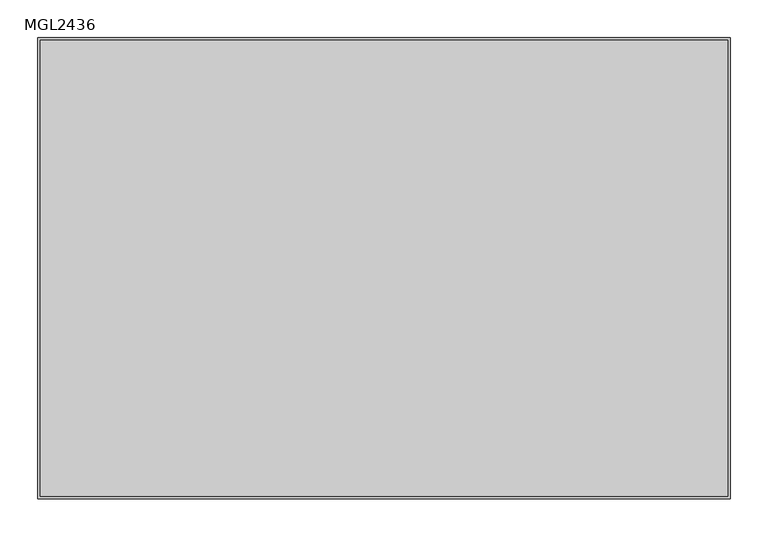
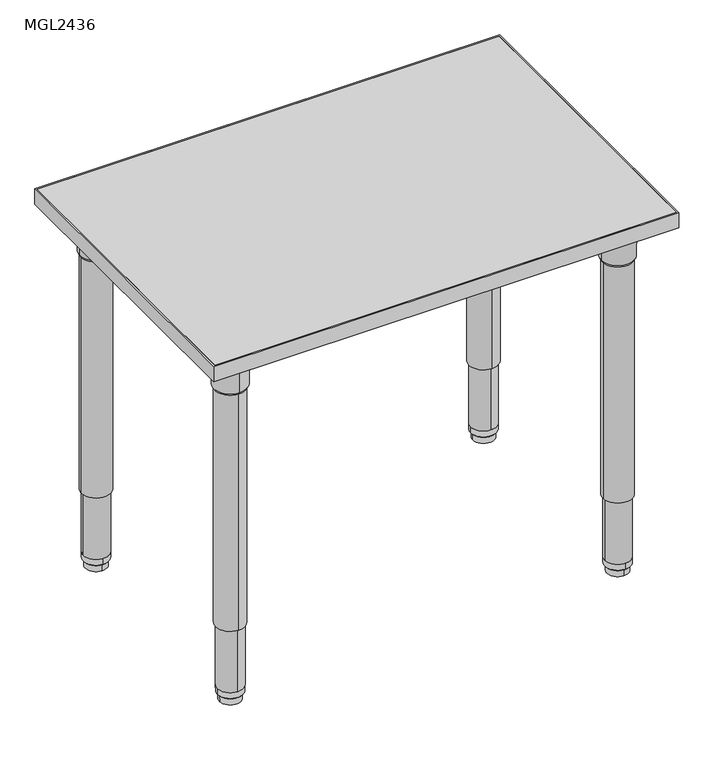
"""IFC4 building model written with IfcOpenShell, lengths in millimetres: furniture geometry, ERG-Mingle-Table-Rectangle : MGL2436."""

import ifcopenshell
import ifcopenshell.guid

model = None  # the IFC model being written
_history = None  # IfcOwnerHistory: only IFC2X3 demands one
_inside = {}  # id of a spatial element -> (the spatial element, [elements in it])
_under = {}  # id of a project, library or spatial element -> (it, [spatial elements below it])
_declared = {}  # id of a project -> (the project, [libraries it declares])
_typed = {}  # id of a type object -> (the type object, [elements of that type])
_made_of = {}  # id of a material, layer set ... -> (it, [elements and type objects made of it])


def new_model(schema):
    """Start an empty IFC model of exactly this schema.

    Asked for "IFC4X3", IfcOpenShell would pick the latest addendum, in which some entities
    have other attributes; the version numbers below select the first issue.
    IFC2X3 requires an IfcOwnerHistory on every rooted entity: one is made here for all.
    """
    global model, _history
    if schema == "IFC4X3":
        model = ifcopenshell.file(schema_version=(4, 3, 0, 0))
    else:
        model = ifcopenshell.file(schema=schema)
    _inside.clear()
    _under.clear()
    _declared.clear()
    _typed.clear()
    _made_of.clear()
    _history = None
    if model.schema == "IFC2X3":
        org = make("IfcOrganization", Name="unknown")
        user = make(
            "IfcPersonAndOrganization",
            ThePerson=make("IfcPerson", FamilyName="unknown"),
            TheOrganization=org,
        )
        app = make(
            "IfcApplication",
            ApplicationDeveloper=org,
            Version="unknown",
            ApplicationFullName="unknown",
            ApplicationIdentifier="unknown",
        )
        _history = make(
            "IfcOwnerHistory",
            OwningUser=user,
            OwningApplication=app,
            ChangeAction="ADDED",
            CreationDate=0,
        )
    return model


def make(cls, **values):
    """One entity of the class cls with the attributes given. An attribute that is None is left unset."""
    return model.create_entity(
        cls, **{name: value for name, value in values.items() if value is not None}
    )


def rooted(cls, **values):
    """An entity with a GlobalId (a new one), such as an element, a storey or a relation."""
    return make(cls, GlobalId=ifcopenshell.guid.new(), OwnerHistory=_history, **values)


def si_unit(unit_type, name, prefix=None):
    """IfcSIUnit, for example si_unit("LENGTHUNIT", "METRE", prefix="MILLI")."""
    return make("IfcSIUnit", UnitType=unit_type, Prefix=prefix, Name=name)


def assignment(units):
    """IfcUnitAssignment: the units of a project."""
    return None if units is None else make("IfcUnitAssignment", Units=units)


def point(xyz):
    """IfcCartesianPoint."""
    return None if xyz is None else make("IfcCartesianPoint", Coordinates=xyz)


def direction(xyz):
    """IfcDirection."""
    return None if xyz is None else make("IfcDirection", DirectionRatios=xyz)


def frame(location, z_axis=None, x_axis=None):
    """IfcAxis2Placement3D, a coordinate frame: its origin and axes. An axis left out is left unset."""
    return make(
        "IfcAxis2Placement3D",
        Location=point(location),
        Axis=direction(z_axis),
        RefDirection=direction(x_axis),
    )


def frame_2d(location, x_axis=None):
    """IfcAxis2Placement2D, a coordinate frame in the plane: its origin and x axis."""
    return make(
        "IfcAxis2Placement2D", Location=point(location), RefDirection=direction(x_axis)
    )


def origin():
    """The frame at (0, 0, 0) with its axes left unset."""
    return frame((0.0, 0.0, 0.0))


def place(relative_to, where):
    """IfcLocalPlacement: puts the frame where relative to a parent placement (None: the world)."""
    return make(
        "IfcLocalPlacement", PlacementRelTo=relative_to, RelativePlacement=where
    )


def context(
    kind, dimensions, precision=None, world=None, true_north=None, identifier=None
):
    """IfcGeometricRepresentationContext, for example the 3D "Model" context."""
    return make(
        "IfcGeometricRepresentationContext",
        ContextIdentifier=identifier,
        ContextType=kind,
        CoordinateSpaceDimension=dimensions,
        Precision=precision,
        WorldCoordinateSystem=world,
        TrueNorth=true_north,
    )


def project(units=None, contexts=None):
    """IfcProject with its units and contexts."""
    return rooted(
        "IfcProject",
        Name="project",
        RepresentationContexts=contexts,
        UnitsInContext=assignment(units),
    )


def spatial(cls, under=None, at=None, **own):
    """A site, building, storey or space (cls), placed at a placement, below another one or the project."""
    s = rooted(cls, ObjectPlacement=at, **own)
    if under is not None:
        _under.setdefault(under.id(), (under, []))[1].append(s)
    return s


def polyline(points):
    """IfcPolyline through the points."""
    return make("IfcPolyline", Points=[point(p) for p in points])


def circle_curve(where, radius):
    """IfcCircle in the frame where."""
    return make("IfcCircle", Position=where, Radius=radius)


def trimmed(basis, trim1, trim2, sense, master):
    """IfcTrimmedCurve: the piece of a basis curve between two trims."""
    return make(
        "IfcTrimmedCurve",
        BasisCurve=basis,
        Trim1=trim1,
        Trim2=trim2,
        SenseAgreement=sense,
        MasterRepresentation=master,
    )


def segment(curve, same_sense, transition):
    """IfcCompositeCurveSegment."""
    return make(
        "IfcCompositeCurveSegment",
        Transition=transition,
        SameSense=same_sense,
        ParentCurve=curve,
    )


def composite_curve(segments, self_intersect=None):
    """IfcCompositeCurve: segments joined end to end."""
    return make("IfcCompositeCurve", Segments=segments, SelfIntersect=self_intersect)


def outline(outer, holes=None, kind="AREA"):
    """IfcArbitraryClosedProfileDef: a profile drawn as a closed curve; with holes, ...WithVoids."""
    if holes is None:
        return make("IfcArbitraryClosedProfileDef", ProfileType=kind, OuterCurve=outer)
    return make(
        "IfcArbitraryProfileDefWithVoids",
        ProfileType=kind,
        OuterCurve=outer,
        InnerCurves=holes,
    )


def extrude(swept, where, along, depth):
    """IfcExtrudedAreaSolid: the profile swept, set in the frame where, extruded along a direction by depth."""
    return make(
        "IfcExtrudedAreaSolid",
        SweptArea=swept,
        Position=where,
        ExtrudedDirection=direction(along),
        Depth=depth,
    )


def shape(context_of_items, identifier, shape_type, items):
    """IfcShapeRepresentation: the items that make up one representation, for example the "Body"."""
    return make(
        "IfcShapeRepresentation",
        ContextOfItems=context_of_items,
        RepresentationIdentifier=identifier,
        RepresentationType=shape_type,
        Items=items,
    )


def source(mapping_origin, context_of_items, identifier, shape_type, items):
    """IfcRepresentationMap: a shape defined once, which mapped items show again and again."""
    return make(
        "IfcRepresentationMap",
        MappingOrigin=mapping_origin,
        MappedRepresentation=shape(context_of_items, identifier, shape_type, items),
    )


def transform(
    local_origin,
    x_axis=None,
    y_axis=None,
    z_axis=None,
    scale=None,
    scale2=None,
    scale3=None,
    uniform=True,
):
    """IfcCartesianTransformationOperator3D, or its non-uniform kind. x_axis, y_axis, z_axis: its Axis1, 2, 3."""
    if uniform:
        return make(
            "IfcCartesianTransformationOperator3D",
            Axis1=direction(x_axis),
            Axis2=direction(y_axis),
            LocalOrigin=point(local_origin),
            Scale=scale,
            Axis3=direction(z_axis),
        )
    return make(
        "IfcCartesianTransformationOperator3DnonUniform",
        Axis1=direction(x_axis),
        Axis2=direction(y_axis),
        LocalOrigin=point(local_origin),
        Scale=scale,
        Axis3=direction(z_axis),
        Scale2=scale2,
        Scale3=scale3,
    )


def mapped(mapping_source, mapping_target):
    """IfcMappedItem: shows the shape of a source again, moved by a transform."""
    return make(
        "IfcMappedItem", MappingSource=mapping_source, MappingTarget=mapping_target
    )


def made_of(thing, what):
    """Note that an element or type object is made of a material, layer set ...; save() writes the relation."""
    if what is not None:
        _made_of.setdefault(what.id(), (what, []))[1].append(thing)
    return thing


def element(
    cls,
    number,
    at=None,
    inside=None,
    cuts=None,
    type_object=None,
    material=None,
    context=None,
    identifier="Body",
    shape_type=None,
    held_by="IfcProductDefinitionShape",
    body=None,
    shapes=None,
    **own,
):
    """One element of the class cls, such as IfcWall. Its Tag is "e" and its number.

    at: its placement. inside: the storey or other place that contains it. cuts: it is an
    opening in that element (IfcRelVoidsElement). A single representation is given by context,
    identifier, shape_type and body (its items); several are given by shapes. held_by: the class
    of the entity that holds the representations. save() writes the other relations.
    """
    e = rooted(cls, Tag="e%d" % number, ObjectPlacement=at, **own)
    if body is not None:
        shapes = [shape(context, identifier, shape_type, body)]
    if shapes is not None:
        e.Representation = make(held_by, Representations=shapes)
    if inside is not None:
        _inside.setdefault(inside.id(), (inside, []))[1].append(e)
    if cuts is not None:
        rooted(
            "IfcRelVoidsElement", RelatingBuildingElement=cuts, RelatedOpeningElement=e
        )
    if type_object is not None:
        _typed.setdefault(type_object.id(), (type_object, []))[1].append(e)
    return made_of(e, material)


def aggregate(whole, parts):
    """IfcRelAggregates: a whole, such as a stair, and the parts it consists of."""
    return rooted("IfcRelAggregates", RelatingObject=whole, RelatedObjects=parts)


def save(model, path):
    """Write the relations noted so far, then the file.

    IfcRelAggregates (storeys below a building ...), IfcRelContainedInSpatialStructure (elements
    in a storey), IfcRelDefinesByType, IfcRelAssociatesMaterial and IfcRelDeclares: one each for
    every whole, place, type object, material and project.
    """
    for whole, parts in _under.values():
        aggregate(whole, parts)
    for where, things in _inside.values():
        rooted(
            "IfcRelContainedInSpatialStructure",
            RelatedElements=things,
            RelatingStructure=where,
        )
    for kind, things in _typed.values():
        rooted("IfcRelDefinesByType", RelatedObjects=things, RelatingType=kind)
    for what, things in _made_of.values():
        rooted("IfcRelAssociatesMaterial", RelatedObjects=things, RelatingMaterial=what)
    for by, libraries in _declared.values():
        rooted("IfcRelDeclares", RelatingContext=by, RelatedDefinitions=libraries)
    model.write(path)


def plane_surface(at):
    """IfcPlane: the flat surface through the origin of the frame at, square to its z axis."""
    return make("IfcPlane", Position=at)


def cylinder_surface(at, radius):
    """IfcCylindricalSurface: all points at the distance radius from the z axis of the frame at."""
    return make("IfcCylindricalSurface", Position=at, Radius=radius)


def revolved_surface(curve, axis_point, axis_direction):
    """IfcSurfaceOfRevolution: the curve turned about the line through axis_point along axis_direction."""
    return make(
        "IfcSurfaceOfRevolution",
        SweptCurve=make("IfcArbitraryOpenProfileDef", ProfileType="CURVE", Curve=curve),
        AxisPosition=make("IfcAxis1Placement", Location=point(axis_point), Axis=direction(axis_direction)),
    )


def advanced_brep(points, edges, surfaces, faces):
    """IfcAdvancedBrep: a solid bounded by faces that lie on surfaces and meet in shared edges.

    An edge is (start, end): straight between two places in points (the first is 0);
    or (start, end, curve); or (start, end, curve, False) where it runs against its curve.
    A face is (place in surfaces, loops), or (place, loops, False) where it looks against
    its surface's normal. A loop lists edges by number (the first is 1), with a minus sign
    where the edge is run from its end to its start. The first loop is the outer one.
    """
    corners = [point(p) for p in points]
    vertices = [make("IfcVertexPoint", VertexGeometry=c) for c in corners]
    made = []
    for start, end, *more in edges:
        made.append(
            make(
                "IfcEdgeCurve",
                EdgeStart=vertices[start],
                EdgeEnd=vertices[end],
                EdgeGeometry=more[0] if more else make("IfcPolyline", Points=[corners[start], corners[end]]),
                SameSense=more[1] if len(more) > 1 else True,
            )
        )
    hull = []
    for where, loops, *sense in faces:
        bounds = []
        for j, loop in enumerate(loops):
            ring = [make("IfcOrientedEdge", EdgeElement=made[abs(k) - 1], Orientation=k > 0) for k in loop]
            bounds.append(
                make(
                    "IfcFaceOuterBound" if j == 0 else "IfcFaceBound",
                    Bound=make("IfcEdgeLoop", EdgeList=ring),
                    Orientation=True,
                )
            )
        hull.append(make("IfcAdvancedFace", Bounds=bounds, FaceSurface=surfaces[where], SameSense=sense[0] if sense else True))
    return make("IfcAdvancedBrep", Outer=make("IfcClosedShell", CfsFaces=hull))


def mgl2436_2387e3a6(model_context):
    return source(origin(), model_context, "Body", "SolidModel", [
        advanced_brep(
        [(350.9646842, -228.6, 650.5933069), (411.0353158, -228.6, 650.5933069), (381.0, -228.6, 650.5933069), (348.856117, -228.6, 654.3580481), (413.143883, -228.6, 654.3580481), (347.9206351, -228.6, 707.7631458), (414.0793649, -228.6, 707.7631458), (344.471083, -228.6, 714.1198315), (417.528917, -228.6, 714.1198315), (344.471083, -228.6, 726.8198315), (417.528917, -228.6, 726.8198315), (381.0, -228.6, 726.8198315)],
        [
            (0, 1, circle_curve(frame((381.0, -228.6, 650.5933069), z_axis=(0.0, 0.0, -1.0), x_axis=(1.0, 0.0, 0.0)), 30.0353158)),
            (1, 2),
            (2, 0),
            (1, 0, circle_curve(frame((381.0, -228.6, 650.5933069), z_axis=(0.0, 0.0, -1.0), x_axis=(1.0, 0.0, 0.0)), 30.0353158)),
            (3, 4, circle_curve(frame((381.0, -228.6, 654.3580481), z_axis=(0.0, 0.0, -1.0), x_axis=(1.0, 0.0, 0.0)), 32.143883)),
            (4, 1),
            (0, 3),
            (4, 3, circle_curve(frame((381.0, -228.6, 654.3580481), z_axis=(0.0, 0.0, -1.0), x_axis=(1.0, 0.0, 0.0)), 32.143883)),
            (5, 6, circle_curve(frame((381.0, -228.6, 707.7631458), z_axis=(0.0, 0.0, -1.0), x_axis=(1.0, 0.0, 0.0)), 33.0793649)),
            (6, 4),
            (3, 5),
            (6, 5, circle_curve(frame((381.0, -228.6, 707.7631458), z_axis=(0.0, 0.0, -1.0), x_axis=(1.0, 0.0, 0.0)), 33.0793649)),
            (7, 8, circle_curve(frame((381.0, -228.6, 714.1198315), z_axis=(0.0, 0.0, -1.0), x_axis=(1.0, 0.0, 0.0)), 36.528917)),
            (8, 6),
            (5, 7),
            (8, 7, circle_curve(frame((381.0, -228.6, 714.1198315), z_axis=(0.0, 0.0, -1.0), x_axis=(1.0, 0.0, 0.0)), 36.528917)),
            (9, 10, circle_curve(frame((381.0, -228.6, 726.8198315), z_axis=(0.0, 0.0, -1.0), x_axis=(1.0, 0.0, 0.0)), 36.528917)),
            (10, 8),
            (7, 9),
            (10, 9, circle_curve(frame((381.0, -228.6, 726.8198315), z_axis=(0.0, 0.0, -1.0), x_axis=(1.0, 0.0, 0.0)), 36.528917)),
            (11, 10),
            (9, 11),
        ],
        [
            plane_surface(frame((381.0, -228.6, 650.5933069), z_axis=(0.0, 0.0, -1.0), x_axis=(1.0, 0.0, 0.0))),
            revolved_surface(polyline([(411.0353158, -228.6, 650.5933069), (413.143883, -228.6, 654.3580481)]), (381.0, -228.6, 726.8198315), (0.0, 0.0, 1.0)),
            revolved_surface(polyline([(413.143883, -228.6, 654.3580481), (414.0793649, -228.6, 707.7631458)]), (381.0, -228.6, 726.8198315), (0.0, 0.0, 1.0)),
            revolved_surface(polyline([(414.0793649, -228.6, 707.7631458), (417.528917, -228.6, 714.1198315)]), (381.0, -228.6, 726.8198315), (0.0, 0.0, 1.0)),
            cylinder_surface(frame((381.0, -228.6, 726.8198315), z_axis=(0.0, 0.0, 1.0), x_axis=(1.0, 0.0, 0.0)), 36.528917),
            plane_surface(frame((381.0, -228.6, 726.8198315), z_axis=(0.0, 0.0, 1.0), x_axis=(1.0, 0.0, 0.0))),
        ],
        [
            (0, [[1, 2, 3]]),
            (0, [[4, -3, -2]]),
            (1, [[5, 6, -1, 7]]),
            (1, [[8, -7, -4, -6]]),
            (2, [[9, 10, -5, 11]]),
            (2, [[12, -11, -8, -10]]),
            (3, [[13, 14, -9, 15]]),
            (3, [[16, -15, -12, -14]]),
            (4, [[17, 18, -13, 19]]),
            (4, [[20, -19, -16, -18]]),
            (5, [[21, -17, 22]]),
            (5, [[-22, -20, -21]]),
        ],
    ),
        extrude(outline(composite_curve([segment(polyline([(426.873768, -146.0223426), (426.873768, -259.7483754)]), True, "CONTINUOUS"), segment(trimmed(circle_curve(frame_2d((410.998768, -259.7483754)), 15.875), [point((426.873768, -259.7483754))], [point((410.998768, -275.6233754))], False, "CARTESIAN"), True, "CONTINUOUS"), segment(polyline([(410.998768, -275.6233754), (297.2864205, -275.6233754)]), True, "CONTINUOUS"), segment(trimmed(circle_curve(frame_2d((297.2864205, -262.9233754)), 12.7), [point((297.2864205, -275.6233754))], [point((284.6491923, -261.6622394))], False, "CARTESIAN"), True, "CONTINUOUS"), segment(trimmed(circle_curve(frame_2d((427.1486077, -275.8830117)), 143.2072406), [point((284.6491923, -261.6622394))], [point((412.9111525, -133.3852622))], False, "CARTESIAN"), True, "CONTINUOUS"), segment(trimmed(circle_curve(frame_2d((414.173768, -146.0223426)), 12.7), [point((412.9111525, -133.3852622))], [point((426.873768, -146.0223426))], False, "CARTESIAN"), True, "CONTINUOUS")], self_intersect=False)), frame((0.0, 0.0, 726.8198315), z_axis=(0.0, 0.0, 1.0), x_axis=(1.0, 0.0, 0.0)), (0.0, 0.0, 1.0), 3.4301685),
        extrude(outline(composite_curve([segment(trimmed(circle_curve(frame_2d((381.0, -228.6)), 28.575), [point((409.575, -228.6))], [point((352.425, -228.6))], False, "CARTESIAN"), True, "CONTINUOUS"), segment(trimmed(circle_curve(frame_2d((381.0, -228.6)), 28.575), [point((352.425, -228.6))], [point((409.575, -228.6))], False, "CARTESIAN"), True, "CONTINUOUS")], self_intersect=False)), frame((0.0, 0.0, 158.3876979), z_axis=(0.0, 0.0, 1.0), x_axis=(1.0, 0.0, 0.0)), (0.0, 0.0, 1.0), 495.4089866),
        extrude(outline(composite_curve([segment(trimmed(circle_curve(frame_2d((381.0, -228.6)), 25.4), [point((406.4, -228.6))], [point((355.6, -228.6))], False, "CARTESIAN"), True, "CONTINUOUS"), segment(trimmed(circle_curve(frame_2d((381.0, -228.6)), 25.4), [point((355.6, -228.6))], [point((406.4, -228.6))], False, "CARTESIAN"), True, "CONTINUOUS")], self_intersect=False)), frame((0.0, 0.0, 28.9580435), z_axis=(0.0, 0.0, 1.0), x_axis=(1.0, 0.0, 0.0)), (0.0, 0.0, 1.0), 176.7049119),
        advanced_brep(
        [(381.0, -203.3649896, 28.9580185), (381.0, -253.8350104, 28.9580185), (381.0, -228.6, 28.9580185), (381.0, -203.500761, 16.3032949), (381.0, -253.699239, 16.3032949), (381.0, -205.0160619, 14.7291007), (381.0, -252.1839381, 14.7291007), (381.0, -207.4591422, 14.7291007), (381.0, -249.7408578, 14.7291007), (381.0, -207.6521336, 0.0), (381.0, -249.5478664, 0.0), (381.0, -228.6, 0.0)],
        [
            (0, 1, circle_curve(frame((381.0, -228.6, 28.9580185), z_axis=(0.0, 0.0, 1.0), x_axis=(0.0, -1.0, 0.0)), 25.2350104)),
            (1, 2),
            (2, 0),
            (1, 0, circle_curve(frame((381.0, -228.6, 28.9580185), z_axis=(0.0, 0.0, 1.0), x_axis=(0.0, -1.0, 0.0)), 25.2350104)),
            (3, 4, circle_curve(frame((381.0, -228.6, 16.3032949), z_axis=(0.0, 0.0, 1.0), x_axis=(0.0, -1.0, 0.0)), 25.099239)),
            (4, 1),
            (0, 3),
            (4, 3, circle_curve(frame((381.0, -228.6, 16.3032949), z_axis=(0.0, 0.0, 1.0), x_axis=(0.0, -1.0, 0.0)), 25.099239)),
            (5, 6, circle_curve(frame((381.0, -228.6, 14.7291007), z_axis=(0.0, 0.0, 1.0), x_axis=(0.0, -1.0, 0.0)), 23.5839381)),
            (6, 4),
            (3, 5),
            (6, 5, circle_curve(frame((381.0, -228.6, 14.7291007), z_axis=(0.0, 0.0, 1.0), x_axis=(0.0, -1.0, 0.0)), 23.5839381)),
            (7, 8, circle_curve(frame((381.0, -228.6, 14.7291007), z_axis=(0.0, 0.0, 1.0), x_axis=(0.0, -1.0, 0.0)), 21.1408578)),
            (8, 6),
            (5, 7),
            (8, 7, circle_curve(frame((381.0, -228.6, 14.7291007), z_axis=(0.0, 0.0, 1.0), x_axis=(0.0, -1.0, 0.0)), 21.1408578)),
            (9, 10, circle_curve(frame((381.0, -228.6, 0.0), z_axis=(0.0, 0.0, 1.0), x_axis=(0.0, -1.0, 0.0)), 20.9478664)),
            (10, 8),
            (7, 9),
            (10, 9, circle_curve(frame((381.0, -228.6, 0.0), z_axis=(0.0, 0.0, 1.0), x_axis=(0.0, -1.0, 0.0)), 20.9478664)),
            (11, 10),
            (9, 11),
        ],
        [
            plane_surface(frame((381.0, -228.6, 28.9580185), z_axis=(0.0, 0.0, 1.0), x_axis=(0.0, -1.0, 0.0))),
            revolved_surface(polyline([(381.0, -253.8350104, 28.9580185), (381.0, -253.699239, 16.3032949)]), (381.0, -228.6, 0.0), (0.0, 0.0, -1.0)),
            revolved_surface(polyline([(381.0, -253.699239, 16.3032949), (381.0, -252.1839381, 14.7291007)]), (381.0, -228.6, 0.0), (0.0, 0.0, -1.0)),
            plane_surface(frame((381.0, -228.6, 14.7291007), z_axis=(0.0, 0.0, -1.0), x_axis=(0.0, -1.0, 0.0))),
            revolved_surface(polyline([(381.0, -249.7408578, 14.7291007), (381.0, -249.5478664, 0.0)]), (381.0, -228.6, 0.0), (0.0, 0.0, -1.0)),
            plane_surface(frame((381.0, -228.6, 0.0), z_axis=(0.0, 0.0, -1.0), x_axis=(0.0, -1.0, 0.0))),
        ],
        [
            (0, [[1, 2, 3]]),
            (0, [[4, -3, -2]]),
            (1, [[5, 6, -1, 7]]),
            (1, [[8, -7, -4, -6]]),
            (2, [[9, 10, -5, 11]]),
            (2, [[12, -11, -8, -10]]),
            (3, [[13, 14, -9, 15]]),
            (3, [[16, -15, -12, -14]]),
            (4, [[17, 18, -13, 19]]),
            (4, [[20, -19, -16, -18]]),
            (5, [[21, -17, 22]]),
            (5, [[-22, -20, -21]]),
        ],
    ),
        advanced_brep(
        [(-381.0, -198.5646842, 650.5933069), (-381.0, -258.6353158, 650.5933069), (-381.0, -228.6, 650.5933069), (-381.0, -196.456117, 654.3580481), (-381.0, -260.743883, 654.3580481), (-381.0, -195.5206351, 707.7631458), (-381.0, -261.6793649, 707.7631458), (-381.0, -192.071083, 714.1198315), (-381.0, -265.128917, 714.1198315), (-381.0, -192.071083, 726.8198315), (-381.0, -265.128917, 726.8198315), (-381.0, -228.6, 726.8198315)],
        [
            (0, 1, circle_curve(frame((-381.0, -228.6, 650.5933069), z_axis=(0.0, 0.0, -1.0), x_axis=(0.0, -1.0, 0.0)), 30.0353158)),
            (1, 2),
            (2, 0),
            (1, 0, circle_curve(frame((-381.0, -228.6, 650.5933069), z_axis=(0.0, 0.0, -1.0), x_axis=(0.0, -1.0, 0.0)), 30.0353158)),
            (3, 4, circle_curve(frame((-381.0, -228.6, 654.3580481), z_axis=(0.0, 0.0, -1.0), x_axis=(0.0, -1.0, 0.0)), 32.143883)),
            (4, 1),
            (0, 3),
            (4, 3, circle_curve(frame((-381.0, -228.6, 654.3580481), z_axis=(0.0, 0.0, -1.0), x_axis=(0.0, -1.0, 0.0)), 32.143883)),
            (5, 6, circle_curve(frame((-381.0, -228.6, 707.7631458), z_axis=(0.0, 0.0, -1.0), x_axis=(0.0, -1.0, 0.0)), 33.0793649)),
            (6, 4),
            (3, 5),
            (6, 5, circle_curve(frame((-381.0, -228.6, 707.7631458), z_axis=(0.0, 0.0, -1.0), x_axis=(0.0, -1.0, 0.0)), 33.0793649)),
            (7, 8, circle_curve(frame((-381.0, -228.6, 714.1198315), z_axis=(0.0, 0.0, -1.0), x_axis=(0.0, -1.0, 0.0)), 36.528917)),
            (8, 6),
            (5, 7),
            (8, 7, circle_curve(frame((-381.0, -228.6, 714.1198315), z_axis=(0.0, 0.0, -1.0), x_axis=(0.0, -1.0, 0.0)), 36.528917)),
            (9, 10, circle_curve(frame((-381.0, -228.6, 726.8198315), z_axis=(0.0, 0.0, -1.0), x_axis=(0.0, -1.0, 0.0)), 36.528917)),
            (10, 8),
            (7, 9),
            (10, 9, circle_curve(frame((-381.0, -228.6, 726.8198315), z_axis=(0.0, 0.0, -1.0), x_axis=(0.0, -1.0, 0.0)), 36.528917)),
            (11, 10),
            (9, 11),
        ],
        [
            plane_surface(frame((-381.0, -228.6, 650.5933069), z_axis=(0.0, 0.0, -1.0), x_axis=(0.0, -1.0, 0.0))),
            revolved_surface(polyline([(-381.0, -258.6353158, 650.5933069), (-381.0, -260.743883, 654.3580481)]), (-381.0, -228.6, 726.8198315), (0.0, 0.0, 1.0)),
            revolved_surface(polyline([(-381.0, -260.743883, 654.3580481), (-381.0, -261.6793649, 707.7631458)]), (-381.0, -228.6, 726.8198315), (0.0, 0.0, 1.0)),
            revolved_surface(polyline([(-381.0, -261.6793649, 707.7631458), (-381.0, -265.128917, 714.1198315)]), (-381.0, -228.6, 726.8198315), (0.0, 0.0, 1.0)),
            cylinder_surface(frame((-381.0, -228.6, 726.8198315), z_axis=(0.0, 0.0, 1.0), x_axis=(0.0, -1.0, 0.0)), 36.528917),
            plane_surface(frame((-381.0, -228.6, 726.8198315), z_axis=(0.0, 0.0, 1.0), x_axis=(0.0, -1.0, 0.0))),
        ],
        [
            (0, [[1, 2, 3]]),
            (0, [[4, -3, -2]]),
            (1, [[5, 6, -1, 7]]),
            (1, [[8, -7, -4, -6]]),
            (2, [[9, 10, -5, 11]]),
            (2, [[12, -11, -8, -10]]),
            (3, [[13, 14, -9, 15]]),
            (3, [[16, -15, -12, -14]]),
            (4, [[17, 18, -13, 19]]),
            (4, [[20, -19, -16, -18]]),
            (5, [[21, -17, 22]]),
            (5, [[-22, -20, -21]]),
        ],
    ),
        extrude(outline(composite_curve([segment(polyline([(-298.4223426, -274.473768), (-412.1483754, -274.473768)]), True, "CONTINUOUS"), segment(trimmed(circle_curve(frame_2d((-412.1483754, -258.598768)), 15.875), [point((-412.1483754, -274.473768))], [point((-428.0233754, -258.598768))], False, "CARTESIAN"), True, "CONTINUOUS"), segment(polyline([(-428.0233754, -258.598768), (-428.0233754, -144.8864205)]), True, "CONTINUOUS"), segment(trimmed(circle_curve(frame_2d((-415.3233754, -144.8864205)), 12.7), [point((-428.0233754, -144.8864205))], [point((-414.0622394, -132.2491923))], False, "CARTESIAN"), True, "CONTINUOUS"), segment(trimmed(circle_curve(frame_2d((-428.2830117, -274.7486077)), 143.2072406), [point((-414.0622394, -132.2491923))], [point((-285.7852622, -260.5111525))], False, "CARTESIAN"), True, "CONTINUOUS"), segment(trimmed(circle_curve(frame_2d((-298.4223426, -261.773768)), 12.7), [point((-285.7852622, -260.5111525))], [point((-298.4223426, -274.473768))], False, "CARTESIAN"), True, "CONTINUOUS")], self_intersect=False)), frame((0.0, 0.0, 726.8198315), z_axis=(0.0, 0.0, 1.0), x_axis=(1.0, 0.0, 0.0)), (0.0, 0.0, 1.0), 3.4301685),
        extrude(outline(composite_curve([segment(trimmed(circle_curve(frame_2d((-381.0, -228.6)), 28.575), [point((-381.0, -257.175))], [point((-381.0, -200.025))], False, "CARTESIAN"), True, "CONTINUOUS"), segment(trimmed(circle_curve(frame_2d((-381.0, -228.6)), 28.575), [point((-381.0, -200.025))], [point((-381.0, -257.175))], False, "CARTESIAN"), True, "CONTINUOUS")], self_intersect=False)), frame((0.0, 0.0, 158.3876979), z_axis=(0.0, 0.0, 1.0), x_axis=(1.0, 0.0, 0.0)), (0.0, 0.0, 1.0), 495.4089866),
        extrude(outline(composite_curve([segment(trimmed(circle_curve(frame_2d((-381.0, -228.6)), 25.4), [point((-381.0, -254.0))], [point((-381.0, -203.2))], False, "CARTESIAN"), True, "CONTINUOUS"), segment(trimmed(circle_curve(frame_2d((-381.0, -228.6)), 25.4), [point((-381.0, -203.2))], [point((-381.0, -254.0))], False, "CARTESIAN"), True, "CONTINUOUS")], self_intersect=False)), frame((0.0, 0.0, 28.9580435), z_axis=(0.0, 0.0, 1.0), x_axis=(1.0, 0.0, 0.0)), (0.0, 0.0, 1.0), 176.7049119),
        advanced_brep(
        [(-355.7649896, -228.6, 28.9580185), (-406.2350104, -228.6, 28.9580185), (-381.0, -228.6, 28.9580185), (-355.900761, -228.6, 16.3032949), (-406.099239, -228.6, 16.3032949), (-357.4160619, -228.6, 14.7291007), (-404.5839381, -228.6, 14.7291007), (-359.8591422, -228.6, 14.7291007), (-402.1408578, -228.6, 14.7291007), (-360.0521336, -228.6, 0.0), (-401.9478664, -228.6, 0.0), (-381.0, -228.6, 0.0)],
        [
            (0, 1, circle_curve(frame((-381.0, -228.6, 28.9580185), z_axis=(0.0, 0.0, 1.0), x_axis=(-1.0, 0.0, 0.0)), 25.2350104)),
            (1, 2),
            (2, 0),
            (1, 0, circle_curve(frame((-381.0, -228.6, 28.9580185), z_axis=(0.0, 0.0, 1.0), x_axis=(-1.0, 0.0, 0.0)), 25.2350104)),
            (3, 4, circle_curve(frame((-381.0, -228.6, 16.3032949), z_axis=(0.0, 0.0, 1.0), x_axis=(-1.0, 0.0, 0.0)), 25.099239)),
            (4, 1),
            (0, 3),
            (4, 3, circle_curve(frame((-381.0, -228.6, 16.3032949), z_axis=(0.0, 0.0, 1.0), x_axis=(-1.0, 0.0, 0.0)), 25.099239)),
            (5, 6, circle_curve(frame((-381.0, -228.6, 14.7291007), z_axis=(0.0, 0.0, 1.0), x_axis=(-1.0, 0.0, 0.0)), 23.5839381)),
            (6, 4),
            (3, 5),
            (6, 5, circle_curve(frame((-381.0, -228.6, 14.7291007), z_axis=(0.0, 0.0, 1.0), x_axis=(-1.0, 0.0, 0.0)), 23.5839381)),
            (7, 8, circle_curve(frame((-381.0, -228.6, 14.7291007), z_axis=(0.0, 0.0, 1.0), x_axis=(-1.0, 0.0, 0.0)), 21.1408578)),
            (8, 6),
            (5, 7),
            (8, 7, circle_curve(frame((-381.0, -228.6, 14.7291007), z_axis=(0.0, 0.0, 1.0), x_axis=(-1.0, 0.0, 0.0)), 21.1408578)),
            (9, 10, circle_curve(frame((-381.0, -228.6, 0.0), z_axis=(0.0, 0.0, 1.0), x_axis=(-1.0, 0.0, 0.0)), 20.9478664)),
            (10, 8),
            (7, 9),
            (10, 9, circle_curve(frame((-381.0, -228.6, 0.0), z_axis=(0.0, 0.0, 1.0), x_axis=(-1.0, 0.0, 0.0)), 20.9478664)),
            (11, 10),
            (9, 11),
        ],
        [
            plane_surface(frame((-381.0, -228.6, 28.9580185), z_axis=(0.0, 0.0, 1.0), x_axis=(-1.0, 0.0, 0.0))),
            revolved_surface(polyline([(-406.2350104, -228.6, 28.9580185), (-406.099239, -228.6, 16.3032949)]), (-381.0, -228.6, 0.0), (0.0, 0.0, -1.0)),
            revolved_surface(polyline([(-406.099239, -228.6, 16.3032949), (-404.5839381, -228.6, 14.7291007)]), (-381.0, -228.6, 0.0), (0.0, 0.0, -1.0)),
            plane_surface(frame((-381.0, -228.6, 14.7291007), z_axis=(0.0, 0.0, -1.0), x_axis=(-1.0, 0.0, 0.0))),
            revolved_surface(polyline([(-402.1408578, -228.6, 14.7291007), (-401.9478664, -228.6, 0.0)]), (-381.0, -228.6, 0.0), (0.0, 0.0, -1.0)),
            plane_surface(frame((-381.0, -228.6, 0.0), z_axis=(0.0, 0.0, -1.0), x_axis=(-1.0, 0.0, 0.0))),
        ],
        [
            (0, [[1, 2, 3]]),
            (0, [[4, -3, -2]]),
            (1, [[5, 6, -1, 7]]),
            (1, [[8, -7, -4, -6]]),
            (2, [[9, 10, -5, 11]]),
            (2, [[12, -11, -8, -10]]),
            (3, [[13, 14, -9, 15]]),
            (3, [[16, -15, -12, -14]]),
            (4, [[17, 18, -13, 19]]),
            (4, [[20, -19, -16, -18]]),
            (5, [[21, -17, 22]]),
            (5, [[-22, -20, -21]]),
        ],
    ),
        advanced_brep(
        [(381.0, 198.5646842, 650.5933069), (381.0, 258.6353158, 650.5933069), (381.0, 228.6, 650.5933069), (381.0, 196.456117, 654.3580481), (381.0, 260.743883, 654.3580481), (381.0, 195.5206351, 707.7631458), (381.0, 261.6793649, 707.7631458), (381.0, 192.071083, 714.1198315), (381.0, 265.128917, 714.1198315), (381.0, 192.071083, 726.8198315), (381.0, 265.128917, 726.8198315), (381.0, 228.6, 726.8198315)],
        [
            (0, 1, circle_curve(frame((381.0, 228.6, 650.5933069), z_axis=(0.0, 0.0, -1.0), x_axis=(0.0, 1.0, 0.0)), 30.0353158)),
            (1, 2),
            (2, 0),
            (1, 0, circle_curve(frame((381.0, 228.6, 650.5933069), z_axis=(0.0, 0.0, -1.0), x_axis=(0.0, 1.0, 0.0)), 30.0353158)),
            (3, 4, circle_curve(frame((381.0, 228.6, 654.3580481), z_axis=(0.0, 0.0, -1.0), x_axis=(0.0, 1.0, 0.0)), 32.143883)),
            (4, 1),
            (0, 3),
            (4, 3, circle_curve(frame((381.0, 228.6, 654.3580481), z_axis=(0.0, 0.0, -1.0), x_axis=(0.0, 1.0, 0.0)), 32.143883)),
            (5, 6, circle_curve(frame((381.0, 228.6, 707.7631458), z_axis=(0.0, 0.0, -1.0), x_axis=(0.0, 1.0, 0.0)), 33.0793649)),
            (6, 4),
            (3, 5),
            (6, 5, circle_curve(frame((381.0, 228.6, 707.7631458), z_axis=(0.0, 0.0, -1.0), x_axis=(0.0, 1.0, 0.0)), 33.0793649)),
            (7, 8, circle_curve(frame((381.0, 228.6, 714.1198315), z_axis=(0.0, 0.0, -1.0), x_axis=(0.0, 1.0, 0.0)), 36.528917)),
            (8, 6),
            (5, 7),
            (8, 7, circle_curve(frame((381.0, 228.6, 714.1198315), z_axis=(0.0, 0.0, -1.0), x_axis=(0.0, 1.0, 0.0)), 36.528917)),
            (9, 10, circle_curve(frame((381.0, 228.6, 726.8198315), z_axis=(0.0, 0.0, -1.0), x_axis=(0.0, 1.0, 0.0)), 36.528917)),
            (10, 8),
            (7, 9),
            (10, 9, circle_curve(frame((381.0, 228.6, 726.8198315), z_axis=(0.0, 0.0, -1.0), x_axis=(0.0, 1.0, 0.0)), 36.528917)),
            (11, 10),
            (9, 11),
        ],
        [
            plane_surface(frame((381.0, 228.6, 650.5933069), z_axis=(0.0, 0.0, -1.0), x_axis=(0.0, 1.0, 0.0))),
            revolved_surface(polyline([(381.0, 258.6353158, 650.5933069), (381.0, 260.743883, 654.3580481)]), (381.0, 228.6, 726.8198315), (0.0, 0.0, 1.0)),
            revolved_surface(polyline([(381.0, 260.743883, 654.3580481), (381.0, 261.6793649, 707.7631458)]), (381.0, 228.6, 726.8198315), (0.0, 0.0, 1.0)),
            revolved_surface(polyline([(381.0, 261.6793649, 707.7631458), (381.0, 265.128917, 714.1198315)]), (381.0, 228.6, 726.8198315), (0.0, 0.0, 1.0)),
            cylinder_surface(frame((381.0, 228.6, 726.8198315), z_axis=(0.0, 0.0, 1.0), x_axis=(0.0, 1.0, 0.0)), 36.528917),
            plane_surface(frame((381.0, 228.6, 726.8198315), z_axis=(0.0, 0.0, 1.0), x_axis=(0.0, 1.0, 0.0))),
        ],
        [
            (0, [[1, 2, 3]]),
            (0, [[4, -3, -2]]),
            (1, [[5, 6, -1, 7]]),
            (1, [[8, -7, -4, -6]]),
            (2, [[9, 10, -5, 11]]),
            (2, [[12, -11, -8, -10]]),
            (3, [[13, 14, -9, 15]]),
            (3, [[16, -15, -12, -14]]),
            (4, [[17, 18, -13, 19]]),
            (4, [[20, -19, -16, -18]]),
            (5, [[21, -17, 22]]),
            (5, [[-22, -20, -21]]),
        ],
    ),
        extrude(outline(composite_curve([segment(polyline([(298.4223426, 274.473768), (412.1483754, 274.473768)]), True, "CONTINUOUS"), segment(trimmed(circle_curve(frame_2d((412.1483754, 258.598768)), 15.875), [point((412.1483754, 274.473768))], [point((428.0233754, 258.598768))], False, "CARTESIAN"), True, "CONTINUOUS"), segment(polyline([(428.0233754, 258.598768), (428.0233754, 144.8864205)]), True, "CONTINUOUS"), segment(trimmed(circle_curve(frame_2d((415.3233754, 144.8864205)), 12.7), [point((428.0233754, 144.8864205))], [point((414.0622394, 132.2491923))], False, "CARTESIAN"), True, "CONTINUOUS"), segment(trimmed(circle_curve(frame_2d((428.2830117, 274.7486077)), 143.2072406), [point((414.0622394, 132.2491923))], [point((285.7852622, 260.5111525))], False, "CARTESIAN"), True, "CONTINUOUS"), segment(trimmed(circle_curve(frame_2d((298.4223426, 261.773768)), 12.7), [point((285.7852622, 260.5111525))], [point((298.4223426, 274.473768))], False, "CARTESIAN"), True, "CONTINUOUS")], self_intersect=False)), frame((0.0, 0.0, 726.8198315), z_axis=(0.0, 0.0, 1.0), x_axis=(1.0, 0.0, 0.0)), (0.0, 0.0, 1.0), 3.4301685),
        extrude(outline(composite_curve([segment(trimmed(circle_curve(frame_2d((381.0, 228.6)), 28.575), [point((381.0, 257.175))], [point((381.0, 200.025))], False, "CARTESIAN"), True, "CONTINUOUS"), segment(trimmed(circle_curve(frame_2d((381.0, 228.6)), 28.575), [point((381.0, 200.025))], [point((381.0, 257.175))], False, "CARTESIAN"), True, "CONTINUOUS")], self_intersect=False)), frame((0.0, 0.0, 158.3876979), z_axis=(0.0, 0.0, 1.0), x_axis=(1.0, 0.0, 0.0)), (0.0, 0.0, 1.0), 495.4089866),
        extrude(outline(composite_curve([segment(trimmed(circle_curve(frame_2d((381.0, 228.6)), 25.4), [point((381.0, 254.0))], [point((381.0, 203.2))], False, "CARTESIAN"), True, "CONTINUOUS"), segment(trimmed(circle_curve(frame_2d((381.0, 228.6)), 25.4), [point((381.0, 203.2))], [point((381.0, 254.0))], False, "CARTESIAN"), True, "CONTINUOUS")], self_intersect=False)), frame((0.0, 0.0, 28.9580435), z_axis=(0.0, 0.0, 1.0), x_axis=(1.0, 0.0, 0.0)), (0.0, 0.0, 1.0), 176.7049119),
        advanced_brep(
        [(355.7649896, 228.6, 28.9580185), (406.2350104, 228.6, 28.9580185), (381.0, 228.6, 28.9580185), (355.900761, 228.6, 16.3032949), (406.099239, 228.6, 16.3032949), (357.4160619, 228.6, 14.7291007), (404.5839381, 228.6, 14.7291007), (359.8591422, 228.6, 14.7291007), (402.1408578, 228.6, 14.7291007), (360.0521336, 228.6, 0.0), (401.9478664, 228.6, 0.0), (381.0, 228.6, 0.0)],
        [
            (0, 1, circle_curve(frame((381.0, 228.6, 28.9580185), z_axis=(0.0, 0.0, 1.0), x_axis=(1.0, 0.0, 0.0)), 25.2350104)),
            (1, 2),
            (2, 0),
            (1, 0, circle_curve(frame((381.0, 228.6, 28.9580185), z_axis=(0.0, 0.0, 1.0), x_axis=(1.0, 0.0, 0.0)), 25.2350104)),
            (3, 4, circle_curve(frame((381.0, 228.6, 16.3032949), z_axis=(0.0, 0.0, 1.0), x_axis=(1.0, 0.0, 0.0)), 25.099239)),
            (4, 1),
            (0, 3),
            (4, 3, circle_curve(frame((381.0, 228.6, 16.3032949), z_axis=(0.0, 0.0, 1.0), x_axis=(1.0, 0.0, 0.0)), 25.099239)),
            (5, 6, circle_curve(frame((381.0, 228.6, 14.7291007), z_axis=(0.0, 0.0, 1.0), x_axis=(1.0, 0.0, 0.0)), 23.5839381)),
            (6, 4),
            (3, 5),
            (6, 5, circle_curve(frame((381.0, 228.6, 14.7291007), z_axis=(0.0, 0.0, 1.0), x_axis=(1.0, 0.0, 0.0)), 23.5839381)),
            (7, 8, circle_curve(frame((381.0, 228.6, 14.7291007), z_axis=(0.0, 0.0, 1.0), x_axis=(1.0, 0.0, 0.0)), 21.1408578)),
            (8, 6),
            (5, 7),
            (8, 7, circle_curve(frame((381.0, 228.6, 14.7291007), z_axis=(0.0, 0.0, 1.0), x_axis=(1.0, 0.0, 0.0)), 21.1408578)),
            (9, 10, circle_curve(frame((381.0, 228.6, 0.0), z_axis=(0.0, 0.0, 1.0), x_axis=(1.0, 0.0, 0.0)), 20.9478664)),
            (10, 8),
            (7, 9),
            (10, 9, circle_curve(frame((381.0, 228.6, 0.0), z_axis=(0.0, 0.0, 1.0), x_axis=(1.0, 0.0, 0.0)), 20.9478664)),
            (11, 10),
            (9, 11),
        ],
        [
            plane_surface(frame((381.0, 228.6, 28.9580185), z_axis=(0.0, 0.0, 1.0), x_axis=(1.0, 0.0, 0.0))),
            revolved_surface(polyline([(406.2350104, 228.6, 28.9580185), (406.099239, 228.6, 16.3032949)]), (381.0, 228.6, 0.0), (0.0, 0.0, -1.0)),
            revolved_surface(polyline([(406.099239, 228.6, 16.3032949), (404.5839381, 228.6, 14.7291007)]), (381.0, 228.6, 0.0), (0.0, 0.0, -1.0)),
            plane_surface(frame((381.0, 228.6, 14.7291007), z_axis=(0.0, 0.0, -1.0), x_axis=(1.0, 0.0, 0.0))),
            revolved_surface(polyline([(402.1408578, 228.6, 14.7291007), (401.9478664, 228.6, 0.0)]), (381.0, 228.6, 0.0), (0.0, 0.0, -1.0)),
            plane_surface(frame((381.0, 228.6, 0.0), z_axis=(0.0, 0.0, -1.0), x_axis=(1.0, 0.0, 0.0))),
        ],
        [
            (0, [[1, 2, 3]]),
            (0, [[4, -3, -2]]),
            (1, [[5, 6, -1, 7]]),
            (1, [[8, -7, -4, -6]]),
            (2, [[9, 10, -5, 11]]),
            (2, [[12, -11, -8, -10]]),
            (3, [[13, 14, -9, 15]]),
            (3, [[16, -15, -12, -14]]),
            (4, [[17, 18, -13, 19]]),
            (4, [[20, -19, -16, -18]]),
            (5, [[21, -17, 22]]),
            (5, [[-22, -20, -21]]),
        ],
    ),
        advanced_brep(
        [(-350.9646842, 228.6, 650.5933069), (-411.0353158, 228.6, 650.5933069), (-381.0, 228.6, 650.5933069), (-348.856117, 228.6, 654.3580481), (-413.143883, 228.6, 654.3580481), (-347.9206351, 228.6, 707.7631458), (-414.0793649, 228.6, 707.7631458), (-344.471083, 228.6, 714.1198315), (-417.528917, 228.6, 714.1198315), (-344.471083, 228.6, 726.8198315), (-417.528917, 228.6, 726.8198315), (-381.0, 228.6, 726.8198315)],
        [
            (0, 1, circle_curve(frame((-381.0, 228.6, 650.5933069), z_axis=(0.0, 0.0, -1.0), x_axis=(-1.0, 0.0, 0.0)), 30.0353158)),
            (1, 2),
            (2, 0),
            (1, 0, circle_curve(frame((-381.0, 228.6, 650.5933069), z_axis=(0.0, 0.0, -1.0), x_axis=(-1.0, 0.0, 0.0)), 30.0353158)),
            (3, 4, circle_curve(frame((-381.0, 228.6, 654.3580481), z_axis=(0.0, 0.0, -1.0), x_axis=(-1.0, 0.0, 0.0)), 32.143883)),
            (4, 1),
            (0, 3),
            (4, 3, circle_curve(frame((-381.0, 228.6, 654.3580481), z_axis=(0.0, 0.0, -1.0), x_axis=(-1.0, 0.0, 0.0)), 32.143883)),
            (5, 6, circle_curve(frame((-381.0, 228.6, 707.7631458), z_axis=(0.0, 0.0, -1.0), x_axis=(-1.0, 0.0, 0.0)), 33.0793649)),
            (6, 4),
            (3, 5),
            (6, 5, circle_curve(frame((-381.0, 228.6, 707.7631458), z_axis=(0.0, 0.0, -1.0), x_axis=(-1.0, 0.0, 0.0)), 33.0793649)),
            (7, 8, circle_curve(frame((-381.0, 228.6, 714.1198315), z_axis=(0.0, 0.0, -1.0), x_axis=(-1.0, 0.0, 0.0)), 36.528917)),
            (8, 6),
            (5, 7),
            (8, 7, circle_curve(frame((-381.0, 228.6, 714.1198315), z_axis=(0.0, 0.0, -1.0), x_axis=(-1.0, 0.0, 0.0)), 36.528917)),
            (9, 10, circle_curve(frame((-381.0, 228.6, 726.8198315), z_axis=(0.0, 0.0, -1.0), x_axis=(-1.0, 0.0, 0.0)), 36.528917)),
            (10, 8),
            (7, 9),
            (10, 9, circle_curve(frame((-381.0, 228.6, 726.8198315), z_axis=(0.0, 0.0, -1.0), x_axis=(-1.0, 0.0, 0.0)), 36.528917)),
            (11, 10),
            (9, 11),
        ],
        [
            plane_surface(frame((-381.0, 228.6, 650.5933069), z_axis=(0.0, 0.0, -1.0), x_axis=(-1.0, 0.0, 0.0))),
            revolved_surface(polyline([(-411.0353158, 228.6, 650.5933069), (-413.143883, 228.6, 654.3580481)]), (-381.0, 228.6, 726.8198315), (0.0, 0.0, 1.0)),
            revolved_surface(polyline([(-413.143883, 228.6, 654.3580481), (-414.0793649, 228.6, 707.7631458)]), (-381.0, 228.6, 726.8198315), (0.0, 0.0, 1.0)),
            revolved_surface(polyline([(-414.0793649, 228.6, 707.7631458), (-417.528917, 228.6, 714.1198315)]), (-381.0, 228.6, 726.8198315), (0.0, 0.0, 1.0)),
            cylinder_surface(frame((-381.0, 228.6, 726.8198315), z_axis=(0.0, 0.0, 1.0), x_axis=(-1.0, 0.0, 0.0)), 36.528917),
            plane_surface(frame((-381.0, 228.6, 726.8198315), z_axis=(0.0, 0.0, 1.0), x_axis=(-1.0, 0.0, 0.0))),
        ],
        [
            (0, [[1, 2, 3]]),
            (0, [[4, -3, -2]]),
            (1, [[5, 6, -1, 7]]),
            (1, [[8, -7, -4, -6]]),
            (2, [[9, 10, -5, 11]]),
            (2, [[12, -11, -8, -10]]),
            (3, [[13, 14, -9, 15]]),
            (3, [[16, -15, -12, -14]]),
            (4, [[17, 18, -13, 19]]),
            (4, [[20, -19, -16, -18]]),
            (5, [[21, -17, 22]]),
            (5, [[-22, -20, -21]]),
        ],
    ),
        extrude(outline(composite_curve([segment(polyline([(-426.873768, 146.0223426), (-426.873768, 259.7483754)]), True, "CONTINUOUS"), segment(trimmed(circle_curve(frame_2d((-410.998768, 259.7483754)), 15.875), [point((-426.873768, 259.7483754))], [point((-410.998768, 275.6233754))], False, "CARTESIAN"), True, "CONTINUOUS"), segment(polyline([(-410.998768, 275.6233754), (-297.2864205, 275.6233754)]), True, "CONTINUOUS"), segment(trimmed(circle_curve(frame_2d((-297.2864205, 262.9233754)), 12.7), [point((-297.2864205, 275.6233754))], [point((-284.6491923, 261.6622394))], False, "CARTESIAN"), True, "CONTINUOUS"), segment(trimmed(circle_curve(frame_2d((-427.1486077, 275.8830117)), 143.2072406), [point((-284.6491923, 261.6622394))], [point((-412.9111525, 133.3852622))], False, "CARTESIAN"), True, "CONTINUOUS"), segment(trimmed(circle_curve(frame_2d((-414.173768, 146.0223426)), 12.7), [point((-412.9111525, 133.3852622))], [point((-426.873768, 146.0223426))], False, "CARTESIAN"), True, "CONTINUOUS")], self_intersect=False)), frame((0.0, 0.0, 726.8198315), z_axis=(0.0, 0.0, 1.0), x_axis=(1.0, 0.0, 0.0)), (0.0, 0.0, 1.0), 3.4301685),
        extrude(outline(composite_curve([segment(trimmed(circle_curve(frame_2d((-381.0, 228.6)), 28.575), [point((-409.575, 228.6))], [point((-352.425, 228.6))], False, "CARTESIAN"), True, "CONTINUOUS"), segment(trimmed(circle_curve(frame_2d((-381.0, 228.6)), 28.575), [point((-352.425, 228.6))], [point((-409.575, 228.6))], False, "CARTESIAN"), True, "CONTINUOUS")], self_intersect=False)), frame((0.0, 0.0, 158.3876979), z_axis=(0.0, 0.0, 1.0), x_axis=(1.0, 0.0, 0.0)), (0.0, 0.0, 1.0), 495.4089866),
        extrude(outline(composite_curve([segment(trimmed(circle_curve(frame_2d((-381.0, 228.6)), 25.4), [point((-406.4, 228.6))], [point((-355.6, 228.6))], False, "CARTESIAN"), True, "CONTINUOUS"), segment(trimmed(circle_curve(frame_2d((-381.0, 228.6)), 25.4), [point((-355.6, 228.6))], [point((-406.4, 228.6))], False, "CARTESIAN"), True, "CONTINUOUS")], self_intersect=False)), frame((0.0, 0.0, 28.9580435), z_axis=(0.0, 0.0, 1.0), x_axis=(1.0, 0.0, 0.0)), (0.0, 0.0, 1.0), 176.7049119),
        advanced_brep(
        [(-381.0, 203.3649896, 28.9580185), (-381.0, 253.8350104, 28.9580185), (-381.0, 228.6, 28.9580185), (-381.0, 203.500761, 16.3032949), (-381.0, 253.699239, 16.3032949), (-381.0, 205.0160619, 14.7291007), (-381.0, 252.1839381, 14.7291007), (-381.0, 207.4591422, 14.7291007), (-381.0, 249.7408578, 14.7291007), (-381.0, 207.6521336, 0.0), (-381.0, 249.5478664, 0.0), (-381.0, 228.6, 0.0)],
        [
            (0, 1, circle_curve(frame((-381.0, 228.6, 28.9580185), z_axis=(0.0, 0.0, 1.0), x_axis=(0.0, 1.0, 0.0)), 25.2350104)),
            (1, 2),
            (2, 0),
            (1, 0, circle_curve(frame((-381.0, 228.6, 28.9580185), z_axis=(0.0, 0.0, 1.0), x_axis=(0.0, 1.0, 0.0)), 25.2350104)),
            (3, 4, circle_curve(frame((-381.0, 228.6, 16.3032949), z_axis=(0.0, 0.0, 1.0), x_axis=(0.0, 1.0, 0.0)), 25.099239)),
            (4, 1),
            (0, 3),
            (4, 3, circle_curve(frame((-381.0, 228.6, 16.3032949), z_axis=(0.0, 0.0, 1.0), x_axis=(0.0, 1.0, 0.0)), 25.099239)),
            (5, 6, circle_curve(frame((-381.0, 228.6, 14.7291007), z_axis=(0.0, 0.0, 1.0), x_axis=(0.0, 1.0, 0.0)), 23.5839381)),
            (6, 4),
            (3, 5),
            (6, 5, circle_curve(frame((-381.0, 228.6, 14.7291007), z_axis=(0.0, 0.0, 1.0), x_axis=(0.0, 1.0, 0.0)), 23.5839381)),
            (7, 8, circle_curve(frame((-381.0, 228.6, 14.7291007), z_axis=(0.0, 0.0, 1.0), x_axis=(0.0, 1.0, 0.0)), 21.1408578)),
            (8, 6),
            (5, 7),
            (8, 7, circle_curve(frame((-381.0, 228.6, 14.7291007), z_axis=(0.0, 0.0, 1.0), x_axis=(0.0, 1.0, 0.0)), 21.1408578)),
            (9, 10, circle_curve(frame((-381.0, 228.6, 0.0), z_axis=(0.0, 0.0, 1.0), x_axis=(0.0, 1.0, 0.0)), 20.9478664)),
            (10, 8),
            (7, 9),
            (10, 9, circle_curve(frame((-381.0, 228.6, 0.0), z_axis=(0.0, 0.0, 1.0), x_axis=(0.0, 1.0, 0.0)), 20.9478664)),
            (11, 10),
            (9, 11),
        ],
        [
            plane_surface(frame((-381.0, 228.6, 28.9580185), z_axis=(0.0, 0.0, 1.0), x_axis=(0.0, 1.0, 0.0))),
            revolved_surface(polyline([(-381.0, 253.8350104, 28.9580185), (-381.0, 253.699239, 16.3032949)]), (-381.0, 228.6, 0.0), (0.0, 0.0, -1.0)),
            revolved_surface(polyline([(-381.0, 253.699239, 16.3032949), (-381.0, 252.1839381, 14.7291007)]), (-381.0, 228.6, 0.0), (0.0, 0.0, -1.0)),
            plane_surface(frame((-381.0, 228.6, 14.7291007), z_axis=(0.0, 0.0, -1.0), x_axis=(0.0, 1.0, 0.0))),
            revolved_surface(polyline([(-381.0, 249.7408578, 14.7291007), (-381.0, 249.5478664, 0.0)]), (-381.0, 228.6, 0.0), (0.0, 0.0, -1.0)),
            plane_surface(frame((-381.0, 228.6, 0.0), z_axis=(0.0, 0.0, -1.0), x_axis=(0.0, 1.0, 0.0))),
        ],
        [
            (0, [[1, 2, 3]]),
            (0, [[4, -3, -2]]),
            (1, [[5, 6, -1, 7]]),
            (1, [[8, -7, -4, -6]]),
            (2, [[9, 10, -5, 11]]),
            (2, [[12, -11, -8, -10]]),
            (3, [[13, 14, -9, 15]]),
            (3, [[16, -15, -12, -14]]),
            (4, [[17, 18, -13, 19]]),
            (4, [[20, -19, -16, -18]]),
            (5, [[21, -17, 22]]),
            (5, [[-22, -20, -21]]),
        ],
    ),
        extrude(outline(polyline([(-454.025, 301.625), (454.025, 301.625), (454.025, -301.625), (-454.025, -301.625), (-454.025, 301.625)])), frame((0.0, 0.0, 730.25), z_axis=(0.0, 0.0, 1.0), x_axis=(1.0, 0.0, 0.0)), (0.0, 0.0, 1.0), 31.75),
        extrude(outline(polyline([(457.2, -304.8), (-457.2, -304.8), (-457.2, 304.8), (457.2, 304.8), (457.2, -304.8)]), holes=[polyline([(454.025, 301.625), (-454.025, 301.625), (-454.025, -301.625), (454.025, -301.625), (454.025, 301.625)])]), frame((0.0, 0.0, 730.25), z_axis=(0.0, 0.0, 1.0), x_axis=(1.0, 0.0, 0.0)), (0.0, 0.0, 1.0), 31.75),
    ])


if __name__ == "__main__":
    model = new_model("IFC4")
    model_context = context("Model", 3, world=origin())
    ifc_project = project(units=[si_unit("LENGTHUNIT", "METRE", prefix="MILLI")], contexts=[model_context])
    site = spatial("IfcSite", under=ifc_project)
    building = spatial("IfcBuilding", under=site)
    placement = place(None, origin())
    mgl2436_shape = mgl2436_2387e3a6(model_context)
    element("IfcFurniture", 1, ObjectType="ERG-Mingle-Table-Rectangle : MGL2436", at=placement, inside=building, context=model_context, shape_type="MappedRepresentation", body=[
        mapped(mgl2436_shape, transform((0.0, 0.0, 0.0), x_axis=(1.0, 0.0, 0.0), y_axis=(0.0, 1.0, 0.0), z_axis=(0.0, 0.0, 1.0))),
    ])
    save(model, "model.ifc")
